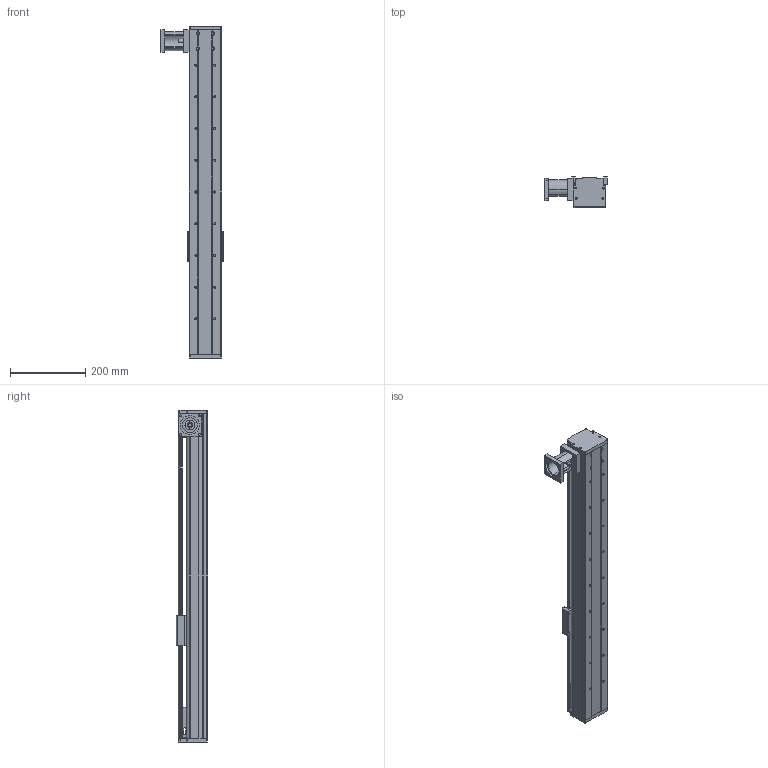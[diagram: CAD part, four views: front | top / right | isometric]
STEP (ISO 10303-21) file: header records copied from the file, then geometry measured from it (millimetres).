
FILE_DESCRIPTION (( 'STEP AP214' ), '1' );
FILE_NAME ('CF86-500-FWL.STEP', '2016-07-15T07:50:26', ( 'Sky123.Org' ), ( 'Sky123.Org' ), 'SwSTEP 2.0', 'SolidWorks 2015', '' );
FILE_SCHEMA (( 'AUTOMOTIVE_DESIGN' ));
Length unit declared in the file: millimetre
Products named in the file (16): 36肮祭謫; deep groove ball bearings gb_Rolling bearings 6000 GB 276-94; 翋雄粣; 86裔啣; 萇儂蟀諉ん; 86耜啣; CF86植雄耜; CF86賑輸; 翋雄釱; EGW15CA賑輸; EGR15絳寢; 86臏倰第; CF86-500-FWL; 粣創結啣; 植雄粣; 肮祭謫5m21喘詢25-27
Assembly tree (17 placements, depth 2):
  CF86-500-FWL
    86臏倰第
    EGR15絳寢
    EGW15CA賑輸
    翋雄釱
    CF86賑輸
    CF86植雄耜
    86耜啣  x2
    萇儂蟀諉ん
    86裔啣
    翋雄粣
    deep groove ball bearings gb_Rolling bearings 6000 GB 276-94  x2
    36肮祭謫
    肮祭謫5m21喘詢25-27
    植雄粣
    粣創結啣
Bounding box: 165.51 x 83.35 x 880 mm (x, y, z)
Volume: 2313651.1 mm3; surface area: 818892 mm2
Topology: 17 solids, 17 shells, 991 faces, 3147 edges, 2100 vertices
Faces by surface type: plane 454, cylinder 385, torus 100, sphere 52
Entity records: 31994 total; most frequent: CARTESIAN_POINT 7219, ORIENTED_EDGE 5080, DIRECTION 4897, EDGE_CURVE 2540, AXIS2_PLACEMENT_3D 1725, VERTEX_POINT 1691, LINE 1447, VECTOR 1447
